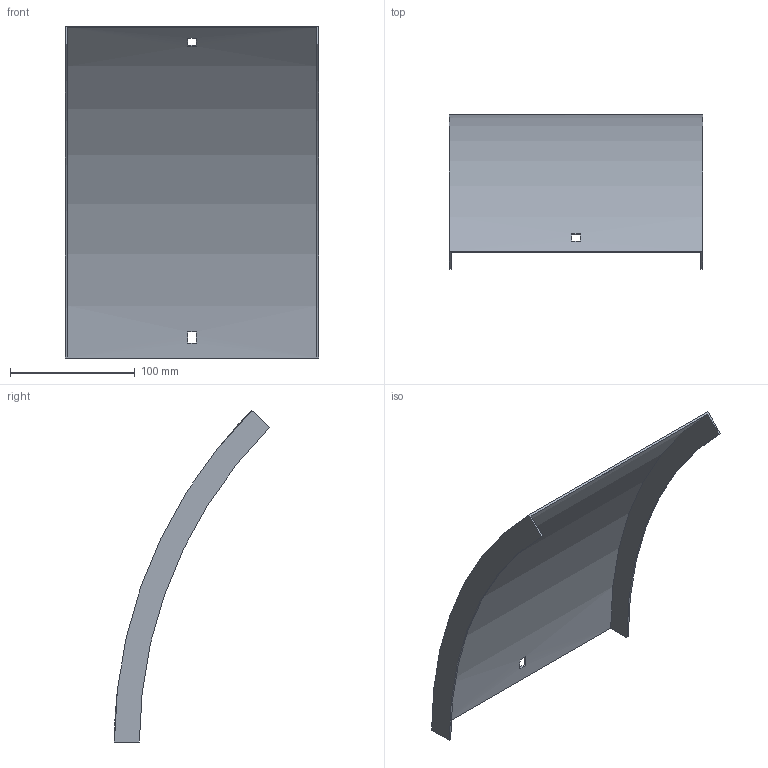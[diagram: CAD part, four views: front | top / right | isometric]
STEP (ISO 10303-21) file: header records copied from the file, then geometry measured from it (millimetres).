
FILE_DESCRIPTION (( 'STEP AP214' ), '1' );
FILE_NAME ('B2_34N3C200.step', '2025-02-21T10:35:51', ( '' ), ( '' ), 'SwSTEP 2.0', 'SolidWorks 2023', '' );
FILE_SCHEMA (( 'AUTOMOTIVE_DESIGN' ));
Length unit declared in the file: millimetre
Products named in the file (1): B2_34N3C200
Bounding box: 203 x 124.42 x 266.23 mm (x, y, z)
Volume: 105629.2 mm3; surface area: 142493.8 mm2
Topology: 1 solids, 1 shells, 18 faces, 48 edges, 32 vertices
Faces by surface type: plane 14, cylinder 4
Entity records: 599 total; most frequent: DIRECTION 102, CARTESIAN_POINT 99, ORIENTED_EDGE 96, EDGE_CURVE 48, AXIS2_PLACEMENT_3D 35, VERTEX_POINT 32, VECTOR 32, LINE 32
